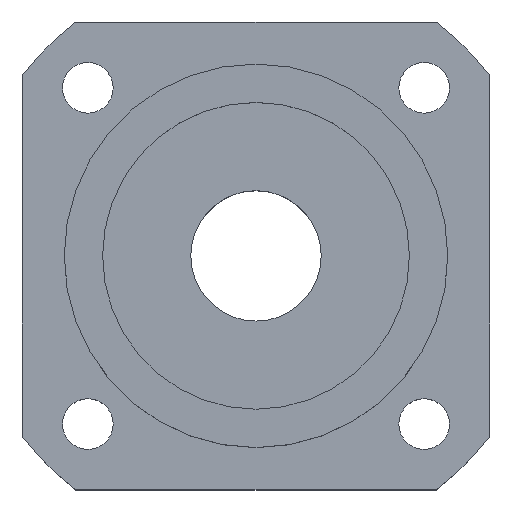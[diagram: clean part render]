
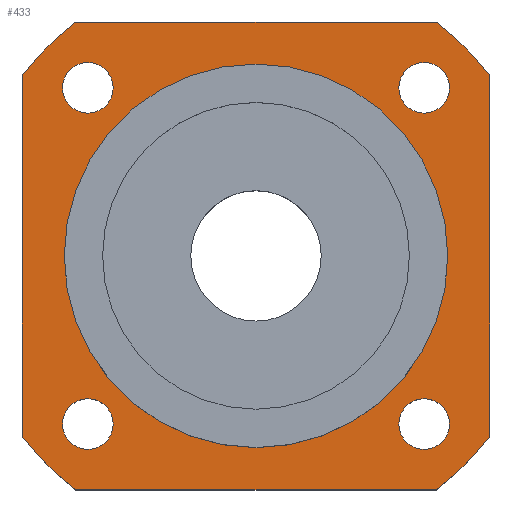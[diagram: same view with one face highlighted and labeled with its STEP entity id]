
A CAD part, top view. The second image highlights one B-rep face of the part: STEP entity #433.
In plain terms, the highlighted planar face has unit normal (0, 0, 1).
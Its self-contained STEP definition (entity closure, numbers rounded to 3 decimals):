
#16=LINE($,#720,#32);
#20=LINE($,#732,#36);
#24=LINE($,#744,#40);
#28=LINE($,#754,#44);
#32=VECTOR($,#598,46.989);
#36=VECTOR($,#610,46.989);
#40=VECTOR($,#622,46.989);
#44=VECTOR($,#634,46.989);
#56=PLANE($,#497);
#80=FACE_BOUND($,#162,.T.);
#81=FACE_BOUND($,#163,.T.);
#82=FACE_BOUND($,#164,.T.);
#83=FACE_BOUND($,#165,.T.);
#84=FACE_BOUND($,#166,.T.);
#85=FACE_BOUND($,#167,.T.);
#162=EDGE_LOOP($,(#364));
#163=EDGE_LOOP($,(#365));
#164=EDGE_LOOP($,(#366));
#165=EDGE_LOOP($,(#367));
#166=EDGE_LOOP($,(#368));
#167=EDGE_LOOP($,(#369,#370,#371,#372,#373,#374,#375,#376));
#183=CIRCLE($,#455,3.3);
#187=CIRCLE($,#462,3.3);
#191=CIRCLE($,#469,3.3);
#195=CIRCLE($,#476,3.3);
#197=CIRCLE($,#479,25.);
#199=CIRCLE($,#483,38.5);
#201=CIRCLE($,#487,38.5);
#203=CIRCLE($,#491,38.5);
#205=CIRCLE($,#495,38.5);
#215=VERTEX_POINT($,#666);
#219=VERTEX_POINT($,#677);
#223=VERTEX_POINT($,#688);
#227=VERTEX_POINT($,#699);
#229=VERTEX_POINT($,#704);
#232=VERTEX_POINT($,#711);
#233=VERTEX_POINT($,#713);
#235=VERTEX_POINT($,#719);
#237=VERTEX_POINT($,#725);
#239=VERTEX_POINT($,#731);
#241=VERTEX_POINT($,#737);
#243=VERTEX_POINT($,#743);
#245=VERTEX_POINT($,#749);
#255=EDGE_CURVE($,#215,#215,#183,.T.);
#259=EDGE_CURVE($,#219,#219,#187,.T.);
#263=EDGE_CURVE($,#223,#223,#191,.T.);
#267=EDGE_CURVE($,#227,#227,#195,.T.);
#269=EDGE_CURVE($,#229,#229,#197,.T.);
#272=EDGE_CURVE($,#233,#232,#199,.T.);
#275=EDGE_CURVE($,#235,#233,#16,.T.);
#278=EDGE_CURVE($,#237,#235,#201,.T.);
#281=EDGE_CURVE($,#239,#237,#20,.T.);
#284=EDGE_CURVE($,#241,#239,#203,.T.);
#287=EDGE_CURVE($,#243,#241,#24,.T.);
#290=EDGE_CURVE($,#245,#243,#205,.T.);
#293=EDGE_CURVE($,#232,#245,#28,.T.);
#364=ORIENTED_EDGE($,*,*,#255,.T.);
#365=ORIENTED_EDGE($,*,*,#259,.T.);
#366=ORIENTED_EDGE($,*,*,#263,.T.);
#367=ORIENTED_EDGE($,*,*,#267,.T.);
#368=ORIENTED_EDGE($,*,*,#269,.T.);
#369=ORIENTED_EDGE($,*,*,#293,.T.);
#370=ORIENTED_EDGE($,*,*,#290,.T.);
#371=ORIENTED_EDGE($,*,*,#287,.T.);
#372=ORIENTED_EDGE($,*,*,#284,.T.);
#373=ORIENTED_EDGE($,*,*,#281,.T.);
#374=ORIENTED_EDGE($,*,*,#278,.T.);
#375=ORIENTED_EDGE($,*,*,#275,.T.);
#376=ORIENTED_EDGE($,*,*,#272,.T.);
#433=ADVANCED_FACE($,(#80,#81,#82,#83,#84,#85),#56,.T.);
#455=AXIS2_PLACEMENT_3D($,#667,#535,#536);
#462=AXIS2_PLACEMENT_3D($,#678,#549,#550);
#469=AXIS2_PLACEMENT_3D($,#689,#563,#564);
#476=AXIS2_PLACEMENT_3D($,#700,#577,#578);
#479=AXIS2_PLACEMENT_3D($,#705,#583,#584);
#483=AXIS2_PLACEMENT_3D($,#714,#592,#593);
#487=AXIS2_PLACEMENT_3D($,#726,#604,#605);
#491=AXIS2_PLACEMENT_3D($,#738,#616,#617);
#495=AXIS2_PLACEMENT_3D($,#750,#628,#629);
#497=AXIS2_PLACEMENT_3D($,#755,#635,#636);
#535=DIRECTION('center_axis',(0.,0.,-1.));
#536=DIRECTION('ref_axis',(-1.,0.,0.));
#549=DIRECTION('center_axis',(0.,0.,-1.));
#550=DIRECTION('ref_axis',(-1.,0.,0.));
#563=DIRECTION('center_axis',(0.,0.,-1.));
#564=DIRECTION('ref_axis',(-1.,0.,0.));
#577=DIRECTION('center_axis',(0.,0.,-1.));
#578=DIRECTION('ref_axis',(-1.,0.,0.));
#583=DIRECTION('center_axis',(0.,0.,-1.));
#584=DIRECTION('ref_axis',(-1.,0.,0.));
#592=DIRECTION('center_axis',(0.,0.,1.));
#593=DIRECTION('ref_axis',(-0.61,0.792,0.));
#598=DIRECTION($,(-1.,0.,0.));
#604=DIRECTION('center_axis',(0.,0.,1.));
#605=DIRECTION('ref_axis',(0.792,0.61,0.));
#610=DIRECTION($,(0.,1.,0.));
#616=DIRECTION('center_axis',(0.,0.,1.));
#617=DIRECTION('ref_axis',(0.61,-0.792,0.));
#622=DIRECTION($,(1.,0.,0.));
#628=DIRECTION('center_axis',(0.,0.,1.));
#629=DIRECTION('ref_axis',(-0.792,-0.61,0.));
#634=DIRECTION($,(0.,-1.,0.));
#635=DIRECTION('center_axis',(0.,0.,1.));
#636=DIRECTION('ref_axis',(1.,0.,0.));
#666=CARTESIAN_POINT('',(-18.62,-21.92,11.));
#667=CARTESIAN_POINT('Origin',(-21.92,-21.92,11.));
#677=CARTESIAN_POINT('',(25.22,21.92,11.));
#678=CARTESIAN_POINT('Origin',(21.92,21.92,11.));
#688=CARTESIAN_POINT('',(25.22,-21.92,11.));
#689=CARTESIAN_POINT('Origin',(21.92,-21.92,11.));
#699=CARTESIAN_POINT('',(-18.62,21.92,11.));
#700=CARTESIAN_POINT('Origin',(-21.92,21.92,11.));
#704=CARTESIAN_POINT('',(25.,0.,11.));
#705=CARTESIAN_POINT('Origin',(0.,0.,11.));
#711=CARTESIAN_POINT('',(-30.5,23.495,11.));
#713=CARTESIAN_POINT('',(-23.495,30.5,11.));
#714=CARTESIAN_POINT('Origin',(0.,0.,11.));
#719=CARTESIAN_POINT('',(23.495,30.5,11.));
#720=CARTESIAN_POINT($,(23.495,30.5,11.));
#725=CARTESIAN_POINT('',(30.5,23.495,11.));
#726=CARTESIAN_POINT('Origin',(0.,0.,11.));
#731=CARTESIAN_POINT('',(30.5,-23.495,11.));
#732=CARTESIAN_POINT($,(30.5,-23.495,11.));
#737=CARTESIAN_POINT('',(23.495,-30.5,11.));
#738=CARTESIAN_POINT('Origin',(0.,0.,11.));
#743=CARTESIAN_POINT('',(-23.495,-30.5,11.));
#744=CARTESIAN_POINT($,(-23.495,-30.5,11.));
#749=CARTESIAN_POINT('',(-30.5,-23.495,11.));
#750=CARTESIAN_POINT('Origin',(0.,0.,11.));
#754=CARTESIAN_POINT($,(-30.5,23.495,11.));
#755=CARTESIAN_POINT('Origin',(0.,0.,
11.));
